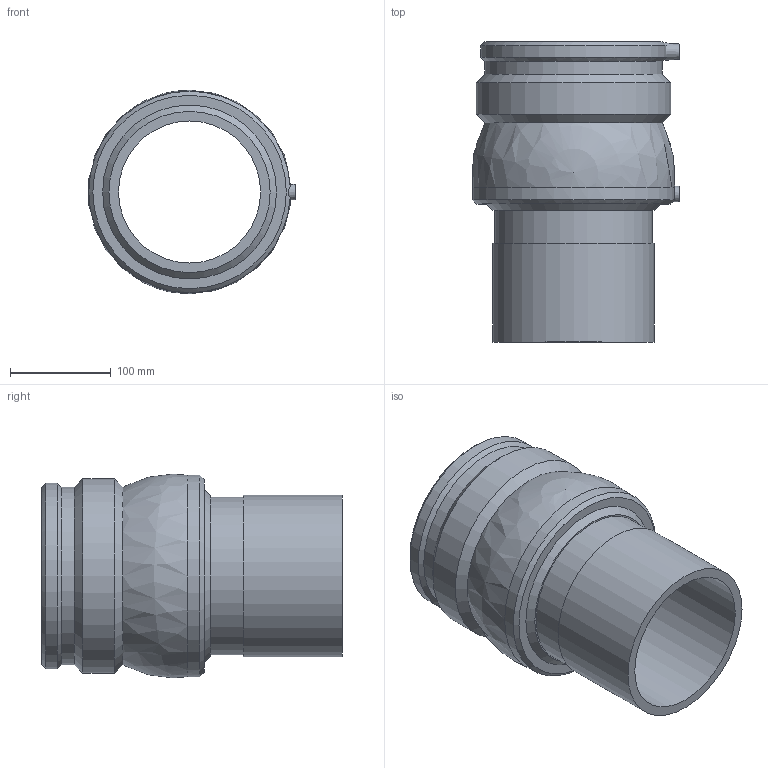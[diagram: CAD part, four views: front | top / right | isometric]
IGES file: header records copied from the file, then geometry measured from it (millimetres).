
Global section: file name: 4747D4160.ipt; native system: Autodesk Inventor 2015; preprocessor: unknown; author: Кирилл,,11,0; organization: 20170830.161326; date: 20171106.093454; units: millimetre
Bounding box: 205.17 x 298 x 202.14 mm (x, y, z)
Volume: 2356858.7 mm3; surface area: 333510.8 mm2
Topology: 1 solids, 1 shells, 35 faces, 75 edges, 50 vertices
Faces by surface type: plane 12, cylinder 8, cone 8, revolution 6, sphere 1
Full cylindrical faces by diameter (mm): 4 x2, 156.8 x1, 160 x1, 176 x1, 193 x1
